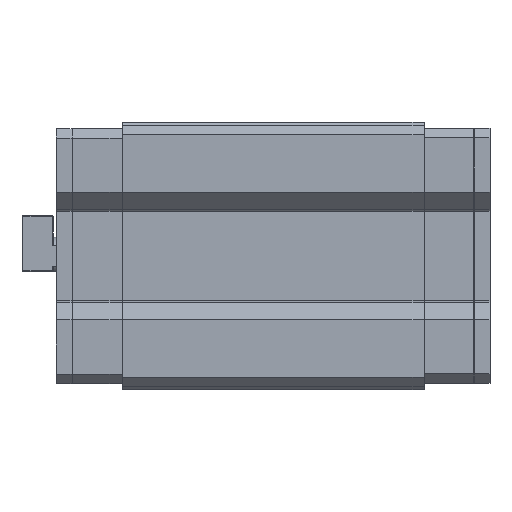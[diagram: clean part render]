
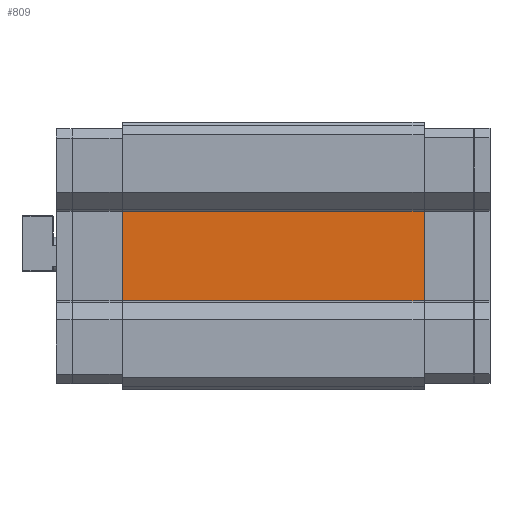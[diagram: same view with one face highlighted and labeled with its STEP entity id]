
A CAD part, front view. The second image highlights one B-rep face of the part: STEP entity #809.
In plain terms, the highlighted planar face has unit normal (0, -1, 0).
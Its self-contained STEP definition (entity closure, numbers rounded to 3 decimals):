
#211 = CARTESIAN_POINT ( 'NONE',  ( 48.5, 0., -14.4 ) ) ;
#260 = EDGE_CURVE ( 'NONE', #12510, #6109, #6236, .T. ) ;
#416 = FACE_OUTER_BOUND ( 'NONE', #4209, .T. ) ;
#605 = CARTESIAN_POINT ( 'NONE',  ( -48.5, 0., 14.4 ) ) ;
#809 = ADVANCED_FACE ( 'NONE', ( #416 ), #7312, .T. ) ;
#1123 = VECTOR ( 'NONE', #3709, 1000. ) ;
#2397 = EDGE_CURVE ( 'NONE', #10414, #6109, #5677, .T. ) ;
#2717 = DIRECTION ( 'NONE',  ( 0., 0., 1. ) ) ;
#2911 = CARTESIAN_POINT ( 'NONE',  ( -48.5, 0., -14.4 ) ) ;
#2987 = VECTOR ( 'NONE', #6220, 1000. ) ;
#3000 = AXIS2_PLACEMENT_3D ( 'NONE', #605, #6892, #11650 ) ;
#3260 = LINE ( 'NONE', #9295, #2987 ) ;
#3709 = DIRECTION ( 'NONE',  ( 0., 0., -1. ) ) ;
#4209 = EDGE_LOOP ( 'NONE', ( #6837, #6374, #9814, #5629 ) ) ;
#4752 = CARTESIAN_POINT ( 'NONE',  ( -48.5, 0., 14.4 ) ) ;
#5629 = ORIENTED_EDGE ( 'NONE', *, *, #260, .T. ) ;
#5677 = LINE ( 'NONE', #12539, #11336 ) ;
#6109 = VERTEX_POINT ( 'NONE', #4752 ) ;
#6220 = DIRECTION ( 'NONE',  ( -1., 0., 0. ) ) ;
#6236 = LINE ( 'NONE', #10271, #6474 ) ;
#6374 = ORIENTED_EDGE ( 'NONE', *, *, #7435, .F. ) ;
#6474 = VECTOR ( 'NONE', #10148, 1000. ) ;
#6798 = LINE ( 'NONE', #10525, #1123 ) ;
#6837 = ORIENTED_EDGE ( 'NONE', *, *, #2397, .F. ) ;
#6892 = DIRECTION ( 'NONE',  ( 0., -1., 0. ) ) ;
#7312 = PLANE ( 'NONE',  #3000 ) ;
#7435 = EDGE_CURVE ( 'NONE', #10616, #10414, #3260, .T. ) ;
#8365 = EDGE_CURVE ( 'NONE', #12510, #10616, #6798, .T. ) ;
#8998 = CARTESIAN_POINT ( 'NONE',  ( 48.5, 0., 14.4 ) ) ;
#9295 = CARTESIAN_POINT ( 'NONE',  ( 69.7, 0., -14.4 ) ) ;
#9814 = ORIENTED_EDGE ( 'NONE', *, *, #8365, .F. ) ;
#10148 = DIRECTION ( 'NONE',  ( -1., 0., 0. ) ) ;
#10271 = CARTESIAN_POINT ( 'NONE',  ( 69.7, 0., 14.4 ) ) ;
#10414 = VERTEX_POINT ( 'NONE', #2911 ) ;
#10525 = CARTESIAN_POINT ( 'NONE',  ( 48.5, 0., 7.2 ) ) ;
#10616 = VERTEX_POINT ( 'NONE', #211 ) ;
#11336 = VECTOR ( 'NONE', #2717, 1000. ) ;
#11650 = DIRECTION ( 'NONE',  ( 0., 0., -1. ) ) ;
#12510 = VERTEX_POINT ( 'NONE', #8998 ) ;
#12539 = CARTESIAN_POINT ( 'NONE',  ( -48.5, 0., 7.2 ) ) ;
